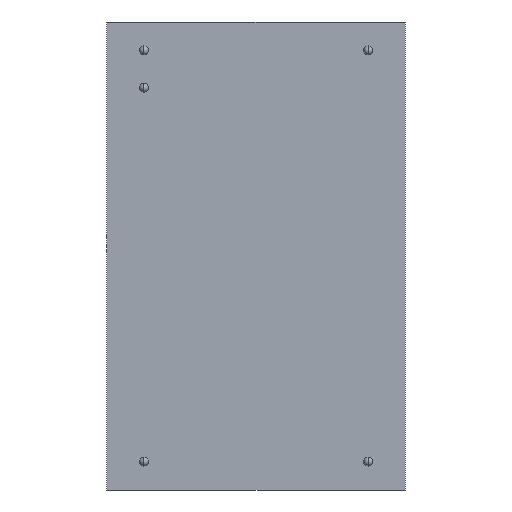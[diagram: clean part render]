
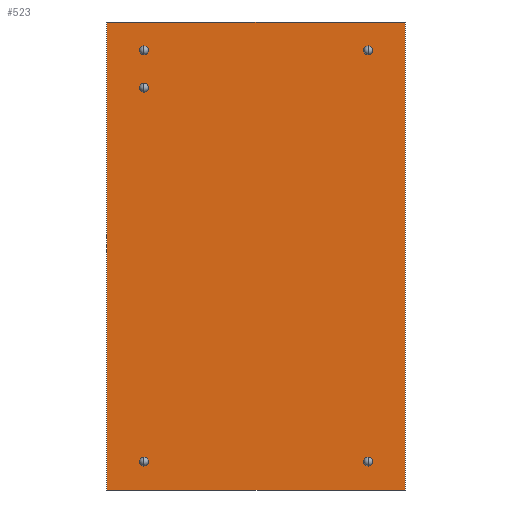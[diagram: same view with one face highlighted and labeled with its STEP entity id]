
A CAD part, front view. The second image highlights one B-rep face of the part: STEP entity #523.
In plain terms, the highlighted planar face has unit normal (0, -1, 0).
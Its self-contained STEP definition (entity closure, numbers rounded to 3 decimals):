
#4 = ORIENTED_EDGE ( 'NONE', *, *, #361, .F. ) ;
#15 = ORIENTED_EDGE ( 'NONE', *, *, #883, .F. ) ;
#21 = VERTEX_POINT ( 'NONE', #628 ) ;
#27 = EDGE_LOOP ( 'NONE', ( #352, #827, #4, #182 ) ) ;
#36 = AXIS2_PLACEMENT_3D ( 'NONE', #38, #334, #251 ) ;
#37 = DIRECTION ( 'NONE',  ( 1., 0., 0. ) ) ;
#38 = CARTESIAN_POINT ( 'NONE',  ( -7.62, 0., 11.43 ) ) ;
#53 = DIRECTION ( 'NONE',  ( 0., 0., 1. ) ) ;
#65 = CARTESIAN_POINT ( 'NONE',  ( -7.62, 0., 14.27 ) ) ;
#74 = LINE ( 'NONE', #634, #262 ) ;
#86 = EDGE_CURVE ( 'NONE', #758, #587, #115, .T. ) ;
#95 = ORIENTED_EDGE ( 'NONE', *, *, #374, .F. ) ;
#115 = CIRCLE ( 'NONE', #200, 0.3 ) ;
#125 = AXIS2_PLACEMENT_3D ( 'NONE', #929, #936, #179 ) ;
#138 = CIRCLE ( 'NONE', #125, 0.3 ) ;
#140 = VERTEX_POINT ( 'NONE', #368 ) ;
#143 = EDGE_CURVE ( 'NONE', #510, #140, #157, .T. ) ;
#149 = DIRECTION ( 'NONE',  ( 0., -1., 0. ) ) ;
#153 = CARTESIAN_POINT ( 'NONE',  ( -7.62, 0., 13.67 ) ) ;
#157 = CIRCLE ( 'NONE', #387, 0.3 ) ;
#159 = EDGE_CURVE ( 'NONE', #212, #772, #324, .T. ) ;
#160 = VERTEX_POINT ( 'NONE', #528 ) ;
#161 = CARTESIAN_POINT ( 'NONE',  ( -7.62, 0., 13.97 ) ) ;
#162 = CARTESIAN_POINT ( 'NONE',  ( 7.62, 0., 13.67 ) ) ;
#164 = ORIENTED_EDGE ( 'NONE', *, *, #86, .F. ) ;
#165 = VECTOR ( 'NONE', #485, 1000. ) ;
#170 = EDGE_CURVE ( 'NONE', #587, #758, #197, .T. ) ;
#179 = DIRECTION ( 'NONE',  ( 0., 0., 1. ) ) ;
#182 = ORIENTED_EDGE ( 'NONE', *, *, #326, .F. ) ;
#192 = CIRCLE ( 'NONE', #606, 0.3 ) ;
#193 = AXIS2_PLACEMENT_3D ( 'NONE', #222, #820, #378 ) ;
#197 = CIRCLE ( 'NONE', #724, 0.3 ) ;
#199 = DIRECTION ( 'NONE',  ( 0., -1., 0. ) ) ;
#200 = AXIS2_PLACEMENT_3D ( 'NONE', #889, #149, #663 ) ;
#208 = ORIENTED_EDGE ( 'NONE', *, *, #716, .F. ) ;
#212 = VERTEX_POINT ( 'NONE', #611 ) ;
#222 = CARTESIAN_POINT ( 'NONE',  ( 7.62, 0., -13.97 ) ) ;
#229 = AXIS2_PLACEMENT_3D ( 'NONE', #565, #569, #53 ) ;
#240 = CIRCLE ( 'NONE', #722, 0.3 ) ;
#244 = DIRECTION ( 'NONE',  ( 0., 0., 1. ) ) ;
#251 = DIRECTION ( 'NONE',  ( 0., 0., 1. ) ) ;
#262 = VECTOR ( 'NONE', #566, 1000. ) ;
#263 = CARTESIAN_POINT ( 'NONE',  ( 10.15, 0., -15.9 ) ) ;
#266 = CARTESIAN_POINT ( 'NONE',  ( -10.15, 0., -15.9 ) ) ;
#276 = DIRECTION ( 'NONE',  ( 0., 0., 1. ) ) ;
#296 = VERTEX_POINT ( 'NONE', #614 ) ;
#308 = LINE ( 'NONE', #328, #365 ) ;
#323 = FACE_OUTER_BOUND ( 'NONE', #27, .T. ) ;
#324 = CIRCLE ( 'NONE', #447, 0.3 ) ;
#326 = EDGE_CURVE ( 'NONE', #598, #603, #308, .T. ) ;
#328 = CARTESIAN_POINT ( 'NONE',  ( -10.15, 0., 15.9 ) ) ;
#334 = DIRECTION ( 'NONE',  ( 0., -1., 0. ) ) ;
#346 = EDGE_CURVE ( 'NONE', #772, #212, #138, .T. ) ;
#352 = ORIENTED_EDGE ( 'NONE', *, *, #789, .F. ) ;
#355 = VERTEX_POINT ( 'NONE', #688 ) ;
#360 = EDGE_LOOP ( 'NONE', ( #558, #15 ) ) ;
#361 = EDGE_CURVE ( 'NONE', #603, #533, #909, .T. ) ;
#362 = ORIENTED_EDGE ( 'NONE', *, *, #969, .F. ) ;
#365 = VECTOR ( 'NONE', #37, 1000. ) ;
#368 = CARTESIAN_POINT ( 'NONE',  ( 7.62, 0., -13.67 ) ) ;
#374 = EDGE_CURVE ( 'NONE', #296, #726, #550, .T. ) ;
#376 = AXIS2_PLACEMENT_3D ( 'NONE', #636, #199, #276 ) ;
#378 = DIRECTION ( 'NONE',  ( 0., 0., 1. ) ) ;
#387 = AXIS2_PLACEMENT_3D ( 'NONE', #913, #399, #672 ) ;
#396 = FACE_BOUND ( 'NONE', #814, .T. ) ;
#399 = DIRECTION ( 'NONE',  ( 0., -1., 0. ) ) ;
#427 = CARTESIAN_POINT ( 'NONE',  ( 7.62, 0., -14.27 ) ) ;
#440 = CIRCLE ( 'NONE', #376, 0.3 ) ;
#447 = AXIS2_PLACEMENT_3D ( 'NONE', #456, #532, #244 ) ;
#456 = CARTESIAN_POINT ( 'NONE',  ( 7.62, 0., 13.97 ) ) ;
#462 = DIRECTION ( 'NONE',  ( 0., 0., 1. ) ) ;
#481 = FACE_BOUND ( 'NONE', #360, .T. ) ;
#485 = DIRECTION ( 'NONE',  ( 0., 0., 1. ) ) ;
#486 = PLANE ( 'NONE',  #229 ) ;
#497 = CIRCLE ( 'NONE', #193, 0.3 ) ;
#505 = LINE ( 'NONE', #266, #165 ) ;
#510 = VERTEX_POINT ( 'NONE', #427 ) ;
#513 = ORIENTED_EDGE ( 'NONE', *, *, #170, .F. ) ;
#523 = ADVANCED_FACE ( 'NONE', ( #837, #863, #323, #396, #481, #623 ), #486, .F. ) ;
#527 = VECTOR ( 'NONE', #621, 1000. ) ;
#528 = CARTESIAN_POINT ( 'NONE',  ( -7.62, 0., -14.27 ) ) ;
#532 = DIRECTION ( 'NONE',  ( 0., -1., 0. ) ) ;
#533 = VERTEX_POINT ( 'NONE', #263 ) ;
#536 = DIRECTION ( 'NONE',  ( 0., -1., 0. ) ) ;
#550 = CIRCLE ( 'NONE', #36, 0.3 ) ;
#558 = ORIENTED_EDGE ( 'NONE', *, *, #952, .F. ) ;
#563 = DIRECTION ( 'NONE',  ( 0., 0., 1. ) ) ;
#565 = CARTESIAN_POINT ( 'NONE',  ( -10.15, 0., 15.9 ) ) ;
#566 = DIRECTION ( 'NONE',  ( -1., 0., 0. ) ) ;
#569 = DIRECTION ( 'NONE',  ( 0., 1., 0. ) ) ;
#570 = CARTESIAN_POINT ( 'NONE',  ( -7.62, 0., 11.43 ) ) ;
#587 = VERTEX_POINT ( 'NONE', #65 ) ;
#598 = VERTEX_POINT ( 'NONE', #801 ) ;
#603 = VERTEX_POINT ( 'NONE', #964 ) ;
#606 = AXIS2_PLACEMENT_3D ( 'NONE', #570, #956, #950 ) ;
#611 = CARTESIAN_POINT ( 'NONE',  ( 7.62, 0., 14.27 ) ) ;
#614 = CARTESIAN_POINT ( 'NONE',  ( -7.62, 0., 11.73 ) ) ;
#621 = DIRECTION ( 'NONE',  ( 0., 0., -1. ) ) ;
#623 = FACE_BOUND ( 'NONE', #694, .T. ) ;
#628 = CARTESIAN_POINT ( 'NONE',  ( -7.62, 0., -13.67 ) ) ;
#634 = CARTESIAN_POINT ( 'NONE',  ( -10.15, 0., -15.9 ) ) ;
#636 = CARTESIAN_POINT ( 'NONE',  ( -7.62, 0., -13.97 ) ) ;
#663 = DIRECTION ( 'NONE',  ( 0., 0., 1. ) ) ;
#672 = DIRECTION ( 'NONE',  ( 0., 0., 1. ) ) ;
#688 = CARTESIAN_POINT ( 'NONE',  ( -10.15, 0., -15.9 ) ) ;
#693 = CARTESIAN_POINT ( 'NONE',  ( 10.15, 0., -15.9 ) ) ;
#694 = EDGE_LOOP ( 'NONE', ( #208, #802 ) ) ;
#716 = EDGE_CURVE ( 'NONE', #140, #510, #497, .T. ) ;
#722 = AXIS2_PLACEMENT_3D ( 'NONE', #763, #846, #563 ) ;
#724 = AXIS2_PLACEMENT_3D ( 'NONE', #161, #536, #462 ) ;
#726 = VERTEX_POINT ( 'NONE', #900 ) ;
#734 = EDGE_LOOP ( 'NONE', ( #813, #751 ) ) ;
#751 = ORIENTED_EDGE ( 'NONE', *, *, #346, .F. ) ;
#758 = VERTEX_POINT ( 'NONE', #153 ) ;
#763 = CARTESIAN_POINT ( 'NONE',  ( -7.62, 0., -13.97 ) ) ;
#772 = VERTEX_POINT ( 'NONE', #162 ) ;
#789 = EDGE_CURVE ( 'NONE', #355, #598, #505, .T. ) ;
#801 = CARTESIAN_POINT ( 'NONE',  ( -10.15, 0., 15.9 ) ) ;
#802 = ORIENTED_EDGE ( 'NONE', *, *, #143, .F. ) ;
#813 = ORIENTED_EDGE ( 'NONE', *, *, #159, .F. ) ;
#814 = EDGE_LOOP ( 'NONE', ( #95, #362 ) ) ;
#820 = DIRECTION ( 'NONE',  ( 0., -1., 0. ) ) ;
#827 = ORIENTED_EDGE ( 'NONE', *, *, #919, .F. ) ;
#834 = EDGE_LOOP ( 'NONE', ( #513, #164 ) ) ;
#837 = FACE_BOUND ( 'NONE', #734, .T. ) ;
#846 = DIRECTION ( 'NONE',  ( 0., -1., 0. ) ) ;
#863 = FACE_BOUND ( 'NONE', #834, .T. ) ;
#883 = EDGE_CURVE ( 'NONE', #160, #21, #240, .T. ) ;
#889 = CARTESIAN_POINT ( 'NONE',  ( -7.62, 0., 13.97 ) ) ;
#900 = CARTESIAN_POINT ( 'NONE',  ( -7.62, 0., 11.13 ) ) ;
#909 = LINE ( 'NONE', #693, #527 ) ;
#913 = CARTESIAN_POINT ( 'NONE',  ( 7.62, 0., -13.97 ) ) ;
#919 = EDGE_CURVE ( 'NONE', #533, #355, #74, .T. ) ;
#929 = CARTESIAN_POINT ( 'NONE',  ( 7.62, 0., 13.97 ) ) ;
#936 = DIRECTION ( 'NONE',  ( 0., -1., 0. ) ) ;
#950 = DIRECTION ( 'NONE',  ( 0., 0., 1. ) ) ;
#952 = EDGE_CURVE ( 'NONE', #21, #160, #440, .T. ) ;
#956 = DIRECTION ( 'NONE',  ( 0., -1., 0. ) ) ;
#964 = CARTESIAN_POINT ( 'NONE',  ( 10.15, 0., 15.9 ) ) ;
#969 = EDGE_CURVE ( 'NONE', #726, #296, #192, .T. ) ;
